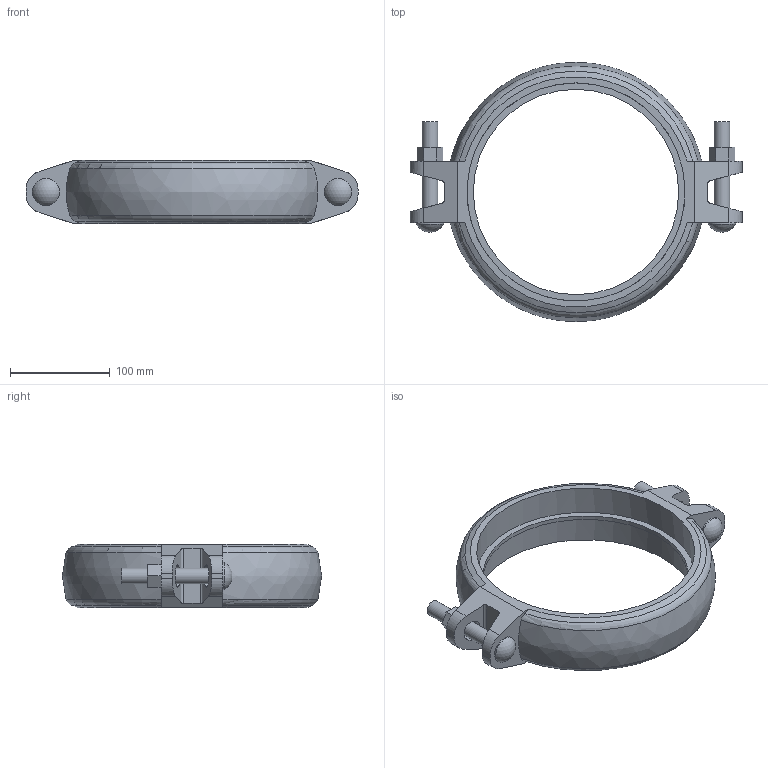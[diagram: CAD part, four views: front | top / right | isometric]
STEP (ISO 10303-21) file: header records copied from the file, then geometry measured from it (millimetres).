
FILE_DESCRIPTION(/* description */ ('VICTAULIC STYLE 009N FIRELOCK EZ RIGID COUPLING','CAx-IF Rec.Pracs.---Representation and Presentation of Product Manufacturing Information (PMI)---4.0---2014-10-13'),/* implementation_level */ '2;1');
FILE_NAME(/* name */ 'C:\Users\Vjadhav\AppData\Roaming\Autodesk\ApplicationPlugins\Victaulic.Temp\A361\Victaulic_FP-FireLock_Coupling Rigid_IR_Style 009N (OGS)_8 (200).stp',/* time_stamp */ '2022-03-23T18:55:39+05:00',/* author */ ('Vjadhav'),/* organization */ ('Victaulic'),/* preprocessor_version */ 'ST-DEVELOPER v17.2',/* originating_system */ 'Autodesk Inventor 2019',/* authorisation */ '');
FILE_SCHEMA (('AP242_MANAGED_MODEL_BASED_3D_ENGINEERING_MIM_LF { 1 0 10303 442 1 1 4 }'));
Length unit declared in the file: inch
Products named in the file (2): 009N-08.0; 009N-08.0_1
Assembly tree (1 placements, depth 2):
  009N-08.0
    009N-08.0_1
Bounding box: 333.5 x 260.35 x 63.5 mm (x, y, z)
Volume: 1029931.2 mm3; surface area: 152721.5 mm2
Topology: 1 solids, 1 shells, 91 faces, 255 edges, 174 vertices
Faces by surface type: plane 50, cylinder 29, cone 4, torus 4, sphere 2, bspline 2
Full cylindrical faces by diameter (mm): 15.875 x4, 27.381 x2, 206.375 x1, 219.075 x2
Entity records: 3315 total; most frequent: CARTESIAN_POINT 723, ORIENTED_EDGE 510, DIRECTION 509, EDGE_CURVE 255, AXIS2_PLACEMENT_3D 182, VERTEX_POINT 174, LINE 145, VECTOR 145
